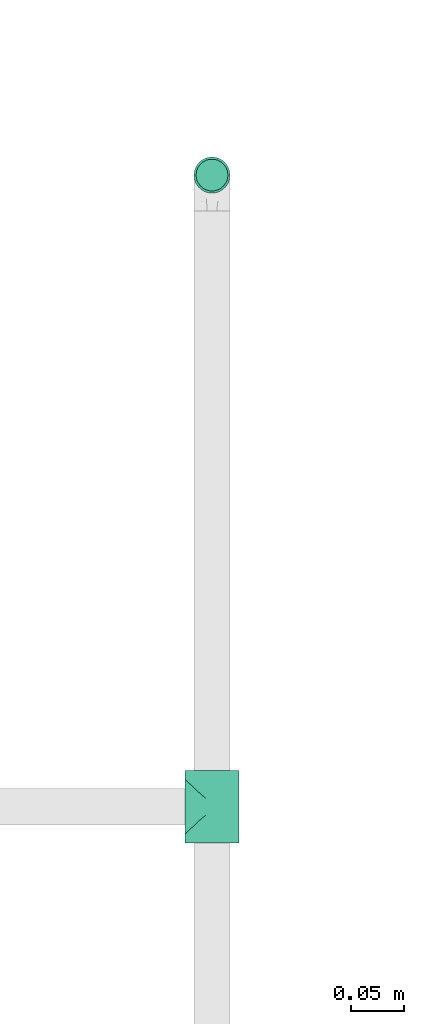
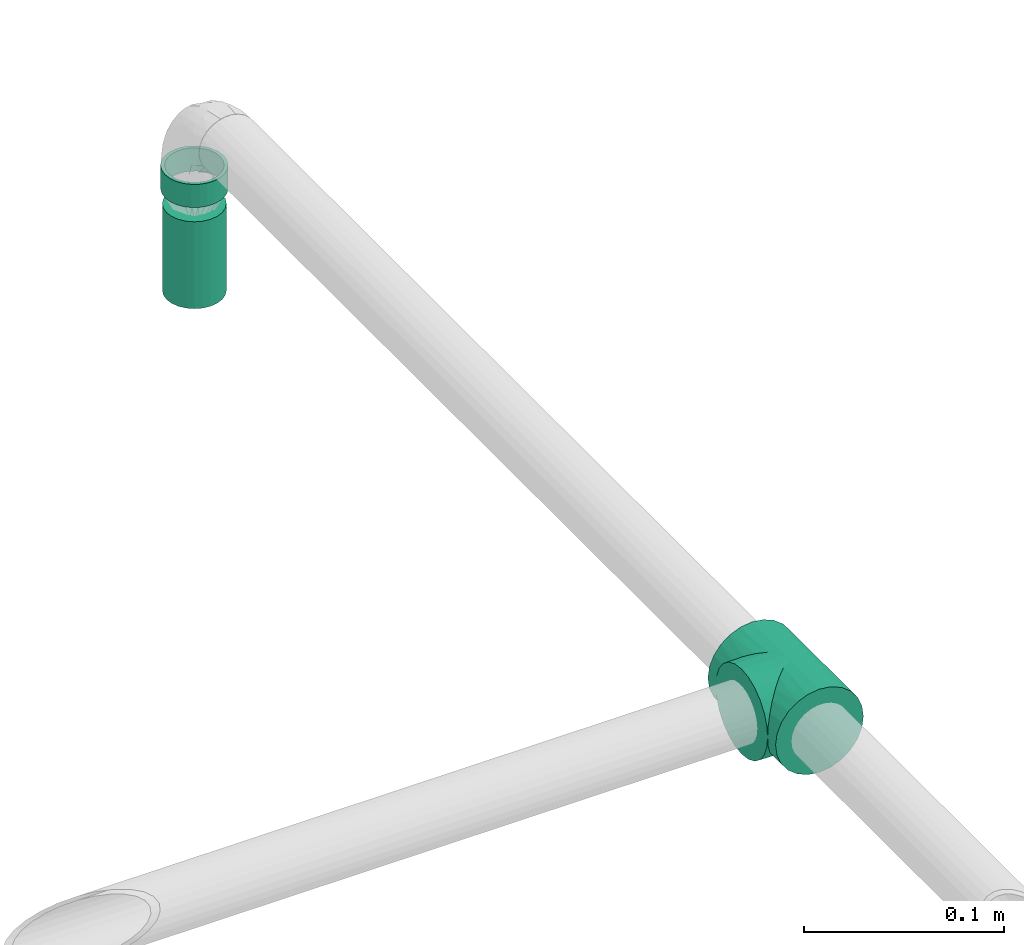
# One storey, part 8 of 17: 1 flow fitting, 1 flow segment, 1 flow terminal.
"""IFC2X3 building model written with IfcOpenShell, lengths in millimetres."""

from ifc_helpers import new_model, entity, si_unit, converted_unit, derived_unit, direction, frame, origin_with_axes, origin_2d_with_axis, place, context, subcontext, project, spatial, hollow_circle, extrude, open_shell, surface_model, source, transform, mapped, type_object, element, save


model = new_model("IFC2X3")

# Units and contexts
model_context = context("Model", 3, precision=0.01, world=frame((0.0, 4.29681676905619e-09, 0.0)), true_north=direction((4.01073788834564e-13, 1.0)))
plan_context = context("Plan", 3, precision=0.01, world=frame((0.0, 4.29681676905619e-09, 0.0)), true_north=direction((4.01073788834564e-13, 1.0)))
body_context = subcontext(model_context, "Body", "Model", "MODEL_VIEW")
ifc_project = project(units=[converted_unit("PLANEANGLEUNIT", "DEGREE", entity("IfcPositiveLengthMeasure", 0.0174532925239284), si_unit("PLANEANGLEUNIT", "RADIAN"), dimensions=[0, 0, 0, 0, 0, 0, 0]), si_unit("AREAUNIT", "SQUARE_METRE"), si_unit("LENGTHUNIT", "METRE", prefix="MILLI"), si_unit("MASSUNIT", "GRAM", prefix="KILO"), si_unit("POWERUNIT", "WATT"), si_unit("PRESSUREUNIT", "PASCAL"), si_unit("FORCEUNIT", "NEWTON", prefix="KILO"), si_unit("ELECTRICVOLTAGEUNIT", "VOLT"), si_unit("ELECTRICCURRENTUNIT", "AMPERE"), si_unit("THERMODYNAMICTEMPERATUREUNIT", "DEGREE_CELSIUS"), si_unit("TIMEUNIT", "SECOND"), si_unit("VOLUMEUNIT", "CUBIC_METRE"), derived_unit("LINEARVELOCITYUNIT", [(si_unit("LENGTHUNIT", "METRE"), 1), (si_unit("TIMEUNIT", "SECOND"), -1)]), derived_unit("VOLUMETRICFLOWRATEUNIT", [(si_unit("VOLUMEUNIT", "CUBIC_METRE"), 1), (si_unit("TIMEUNIT", "SECOND"), -1)]), derived_unit("THERMALTRANSMITTANCEUNIT", [(si_unit("POWERUNIT", "WATT"), 1), (si_unit("THERMODYNAMICTEMPERATUREUNIT", "KELVIN"), -1), (si_unit("AREAUNIT", "SQUARE_METRE"), -1)]), derived_unit("SOUNDPRESSUREUNIT", [(si_unit("PRESSUREUNIT", "PASCAL"), 1)])], contexts=[model_context, plan_context])

# Site, building, storey
site_placement = place(None, frame((0.0, -4.29681676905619e-09, 0.0), z_axis=(0.0, 0.0, 1.0), x_axis=(1.0, 0.0, 0.0)))
site = spatial("IfcSite", under=ifc_project, at=site_placement, Name="ENGM", CompositionType="ELEMENT")
building_placement = place(site_placement, frame((0.0, 4.29681676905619e-09, 0.0), z_axis=(0.0, 0.0, 1.0), x_axis=(1.0, 0.0, 0.0)))
building = spatial("IfcBuilding", under=site, at=building_placement, Name="TH", CompositionType="ELEMENT")
storey_placement = place(building_placement, frame((0.0, 0.0, 205200.0), z_axis=(0.0, 0.0, 1.0), x_axis=(1.0, 0.0, 0.0)))
storey = spatial("IfcBuildingStorey", under=building, at=storey_placement, Name="Nivå D + 1,2 m", CompositionType="ELEMENT", Elevation=205200.0)

# Flow fitting
pipe_fitting_type = type_object("IfcPipeFittingType", Name="magi_pipe_fe_tee_centric_90_NOR 2", PredefinedType="JUNCTION")
shared_shape_1 = source(origin_with_axes(), body_context, "Body", "SurfaceModel", [
    surface_model("IfcShellBasedSurfaceModel", [(-33.8, 4.37404, -16.32415), (-33.8, 0.0, -16.9), (-33.8, 16.32415, -4.37404), (-33.8, 8.45, -14.63583), (-33.8, 11.9501, -11.9501), (-33.8, 14.63583, -8.45), (-33.8, -16.9, 0.0), (-33.8, -11.9501, -11.9501), (-33.8, -14.63583, -8.45), (-33.8, -8.45, -14.63583), (-33.8, -4.37404, -16.32415), (-33.8, -16.32415, -4.37404), (-33.8, 14.63583, 8.45), (-33.8, 16.32415, 4.37404), (-33.8, -8.45, 14.63583), (-33.8, 8.45, 14.63583), (-33.8, 11.9501, 11.9501), (-33.8, 4.37404, 16.32415), (-33.8, 0.0, 16.9), (-33.8, -4.37404, 16.32415), (-33.8, -16.32415, 4.37404), (-33.8, 16.9, 0.0), (33.8, 4.37404, -16.32415), (33.8, -16.9, 0.0), (33.8, 0.0, -16.9), (33.8, 14.63583, -8.45), (33.8, 8.45, -14.63583), (33.8, 16.32415, -4.37404), (33.8, 11.9501, -11.9501), (33.8, -16.32415, 4.37404), (33.8, -8.45, -14.63583), (33.8, -4.37404, -16.32415), (33.8, -11.9501, -11.9501), (33.8, -14.63583, -8.45), (33.8, -16.32415, -4.37404), (33.8, 16.32415, 4.37404), (33.8, 8.45, 14.63583), (33.8, 14.63583, 8.45), (33.8, 11.9501, 11.9501), (33.8, -8.45, 14.63583), (33.8, 0.0, 16.9), (33.8, -4.37404, 16.32415), (33.8, -14.63583, 8.45), (16.28698, -16.28698, 4.51047), (16.9, -16.9, 0.0), (14.62704, -14.62704, 8.4652), (33.8, -11.9501, 11.9501), (9.47213, -9.47213, 13.99602), (12.26343, -12.26343, 11.62834), (-16.9, -16.9, 0.0), (-16.28698, -16.28698, 4.51047), (-33.8, -14.63583, 8.45), (-14.62704, -14.62704, 8.4652), (-12.26343, -12.26343, 11.62834), (-9.47213, -9.47213, 13.99602), (-33.8, -11.9501, 11.9501), (-6.42894, -6.42894, 15.62942), (6.42894, -6.42894, 15.62942), (3.24522, -3.24522, 16.58549), (0.0, 0.0, 16.9), (33.8, 4.37404, 16.32415), (33.8, 16.9, 0.0), (-3.24522, -3.24522, 16.58549), (3.24522, -3.24522, -16.58549), (0.0, 0.0, -16.9), (-3.24522, -3.24522, -16.58549), (-6.42894, -6.42894, -15.62942), (6.42894, -6.42894, -15.62942), (9.47213, -9.47213, -13.99602), (12.26343, -12.26343, -11.62834), (14.62704, -14.62704, -8.4652), (16.28698, -16.28698, -4.51047), (-9.47213, -9.47213, -13.99602), (-12.26343, -12.26343, -11.62834), (-16.28698, -16.28698, -4.51047), (-14.62704, -14.62704, -8.4652), (4.37404, -25.35, -16.32415), (-16.9, -25.35, 0.0), (0.0, -25.35, -16.9), (14.63583, -25.35, -8.45), (8.45, -25.35, -14.63583), (16.32415, -25.35, -4.37404), (11.9501, -25.35, -11.9501), (-11.9501, -25.35, -11.9501), (-8.45, -25.35, -14.63583), (-4.37404, -25.35, -16.32415), (-14.63583, -25.35, -8.45), (-16.32415, -25.35, -4.37404), (8.45, -25.35, 14.63583), (16.32415, -25.35, 4.37404), (14.63583, -25.35, 8.45), (11.9501, -25.35, 11.9501), (-16.32415, -25.35, 4.37404), (-11.9501, -25.35, 11.9501), (-14.63583, -25.35, 8.45), (-8.45, -25.35, 14.63583), (0.0, -25.35, 16.9), (-4.37404, -25.35, 16.32415), (4.37404, -25.35, 16.32415), (16.9, -25.35, 0.0), (0.0, -25.35, -25.9), (6.70341, -25.35, -25.01748), (12.95, -25.35, -22.43006), (-6.70341, -25.35, -25.01748), (22.43006, -25.35, -12.95), (25.01748, -25.35, -6.70341), (18.31407, -25.35, -18.31407), (-18.31407, -25.35, -18.31407), (-12.95, -25.35, -22.43006), (-25.01748, -25.35, -6.70341), (-22.43006, -25.35, -12.95), (-25.9, -25.35, 0.0), (-18.31407, -25.35, 18.31407), (25.9, -25.35, 0.0), (25.01748, -25.35, 6.70341), (22.43006, -25.35, 12.95), (12.95, -25.35, 22.43006), (18.31407, -25.35, 18.31407), (0.0, -25.35, 25.9), (6.70341, -25.35, 25.01748), (-25.01748, -25.35, 6.70341), (-22.43006, -25.35, 12.95), (-6.70341, -25.35, 25.01748), (-12.95, -25.35, 22.43006), (-25.09344, -24.52537, 6.41319), (-25.06335, -25.35, 6.35497), (23.99287, -23.39675, 9.26368), (23.72377, -25.35, 9.82671), (24.0472, -25.35, 9.04588), (24.26801, -23.6789, 8.55106), (-22.89229, -22.26813, 12.11417), (-23.07691, -25.35, 11.38835), (-15.98186, -15.07423, 20.38112), (25.09344, -24.52537, 6.41319), (25.06335, -25.35, 6.35497), (-11.93303, -10.68689, 22.98723), (-23.99287, -23.39675, 9.26368), (-24.0472, -25.35, 9.04588), (-23.72377, -25.35, 9.82671), (24.95587, -24.38429, 6.7695), (-20.37206, -25.35, 15.63203), (-19.72917, -19.00139, 16.78004), (-24.85577, -25.35, 7.09383), (-24.95587, -24.38429, 6.7695), (-5.30919, 0.0, 25.35), (24.54316, -23.96106, 7.83843), (24.37062, -25.35, 8.26506), (24.69405, -25.35, 7.48424), (-24.26801, -23.6789, 8.55106), (-24.54316, -23.96106, 7.83843), (-24.37062, -25.35, 8.26506), (-21.40106, -25.35, 14.29102), (-21.31073, -20.63476, 14.4471), (-23.44258, -22.83244, 10.68892), (19.72917, -19.00139, 16.78004), (20.37206, -25.35, 15.63203), (-25.40754, -24.8465, 3.91569), (-25.38447, -25.35, 3.91583), (-7.90306, -5.85414, 24.66478), (24.85577, -25.35, 7.09383), (23.44258, -22.83244, 10.68892), (0.00306, 0.0, 25.9), (-25.20098, -25.35, 5.30962), (-25.21123, -24.64579, 5.47663), (-25.25049, -24.68593, 5.16444), (11.93303, -10.68689, 22.98723), (15.98186, -15.07423, 20.38112), (25.13271, -24.56551, 6.101), (22.89229, -22.26813, 12.11417), (21.31073, -20.63476, 14.4471), (25.25049, -24.68593, 5.16444), (25.24685, -25.35, 4.96118), (25.28976, -24.72608, 4.85225), (25.21123, -24.64579, 5.47663), (25.17197, -24.60565, 5.78882), (25.1551, -25.35, 5.65807), (23.07691, -25.35, 11.38835), (5.30919, 0.0, 25.35), (7.90306, -5.85414, 24.66478), (25.10923, -25.35, 6.00652), (-25.32902, -24.76622, 4.54007), (-25.3386, -25.35, 4.26428), (-25.29272, -25.35, 4.61273), (21.40106, -25.35, 14.29102), (-24.69405, -25.35, 7.48424), (-25.13271, -24.56551, 6.101), (24.8183, -24.24321, 7.12581), (-24.8183, -24.24321, 7.12581), (-25.24685, -25.35, 4.96118), (25.38447, -25.35, 3.91583), (25.40754, -24.8465, 3.91569), (-25.17197, -24.60565, 5.78882), (-25.1551, -25.35, 5.65807), (-25.10923, -25.35, 6.00652), (25.3386, -25.35, 4.26428), (25.36828, -24.80636, 4.22788), (25.32902, -24.76622, 4.54007), (25.20098, -25.35, 5.30962), (-25.36828, -24.80636, 4.22788), (25.29272, -25.35, 4.61273), (-25.28976, -24.72608, 4.85225), (25.06335, -25.35, -6.35497), (25.09344, -24.52537, -6.41319), (25.13271, -24.56551, -6.101), (24.26801, -23.6789, -8.55106), (24.54316, -23.96106, -7.83843), (24.37062, -25.35, -8.26506), (-25.06335, -25.35, -6.35497), (-25.10923, -25.35, -6.00652), (-25.13271, -24.56551, -6.101), (20.37206, -25.35, -15.63203), (19.72917, -19.00139, -16.78004), (23.07691, -25.35, -11.38835), (23.44258, -22.83244, -10.68892), (23.72377, -25.35, -9.82671), (15.98186, -15.07423, -20.38112), (-23.07691, -25.35, -11.38835), (-23.72377, -25.35, -9.82671), (-23.44258, -22.83244, -10.68892), (25.32902, -24.76622, -4.54007), (25.3386, -25.35, -4.26428), (25.29272, -25.35, -4.61273), (22.89229, -22.26813, -12.11417), (-24.95587, -24.38429, -6.7695), (-24.8183, -24.24321, -7.12581), (-24.85577, -25.35, -7.09383), (11.93303, -10.68689, -22.98723), (-25.21123, -24.64579, -5.47663), (-25.17197, -24.60565, -5.78882), (-25.1551, -25.35, -5.65807), (21.40106, -25.35, -14.29102), (21.31073, -20.63476, -14.4471), (-25.25049, -24.68593, -5.16444), (-25.24685, -25.35, -4.96118), (-25.28976, -24.72608, -4.85225), (7.90306, -5.85414, -24.66478), (-25.09344, -24.52537, -6.41319), (5.30919, 0.0, -25.35), (0.00306, 0.0, -25.9), (23.99287, -23.39675, -9.26368), (24.0472, -25.35, -9.04588), (25.40754, -24.8465, -3.91569), (25.38447, -25.35, -3.91583), (24.95587, -24.38429, -6.7695), (-11.93303, -10.68689, -22.98723), (-5.30919, 0.0, -25.35), (-24.37062, -25.35, -8.26506), (-24.26801, -23.6789, -8.55106), (-24.0472, -25.35, -9.04588), (-22.89229, -22.26813, -12.11417), (-21.31073, -20.63476, -14.4471), (-15.98186, -15.07423, -20.38112), (-19.72917, -19.00139, -16.78004), (-20.37206, -25.35, -15.63203), (-21.40106, -25.35, -14.29102), (-7.90306, -5.85414, -24.66478), (25.20098, -25.35, -5.30962), (25.21123, -24.64579, -5.47663), (25.25049, -24.68593, -5.16444), (-23.99287, -23.39675, -9.26368), (-24.54316, -23.96106, -7.83843), (-24.69405, -25.35, -7.48424), (24.69405, -25.35, -7.48424), (24.85577, -25.35, -7.09383), (24.8183, -24.24321, -7.12581), (25.24685, -25.35, -4.96118), (-25.38447, -25.35, -3.91583), (-25.40754, -24.8465, -3.91569), (25.17197, -24.60565, -5.78882), (25.1551, -25.35, -5.65807), (25.10923, -25.35, -6.00652), (-25.3386, -25.35, -4.26428), (-25.36828, -24.80636, -4.22788), (-25.32902, -24.76622, -4.54007), (-25.20098, -25.35, -5.30962), (25.36828, -24.80636, -4.22788), (-25.29272, -25.35, -4.61273), (25.28976, -24.72608, -4.85225), (-33.8, 0.0, -25.35), (-33.8, -25.35, 0.0), (-33.8, 6.56106, -24.48622), (-33.8, 12.675, -21.95374), (-33.8, 21.95374, -12.675), (-33.8, 24.48622, -6.56106), (-33.8, 17.92516, -17.92516), (-33.8, -17.92516, -17.92516), (-33.8, -21.95374, -12.675), (-33.8, -12.675, -21.95374), (-33.8, -6.56106, -24.48622), (-33.8, -24.48622, -6.56106), (-33.8, 25.35, 0.0), (-33.8, 24.48622, 6.56106), (-33.8, -21.95374, 12.675), (-33.8, 21.95374, 12.675), (-33.8, 6.56106, 24.48622), (-33.8, 12.675, 21.95374), (-33.8, 17.92516, 17.92516), (-33.8, -17.92516, 17.92516), (-33.8, -6.56106, 24.48622), (-33.8, -24.48622, 6.56106), (-33.8, -12.675, 21.95374), (-33.8, 0.0, 25.35), (33.8, 6.56106, -24.48622), (33.8, -25.35, 0.0), (33.8, 0.0, -25.35), (33.8, 21.95374, -12.675), (33.8, 12.675, -21.95374), (33.8, 24.48622, 6.56106), (33.8, 17.92516, -17.92516), (33.8, -12.675, -21.95374), (33.8, -21.95374, -12.675), (33.8, -17.92516, -17.92516), (33.8, -6.56106, -24.48622), (33.8, -24.48622, -6.56106), (33.8, 24.48622, -6.56106), (33.8, 21.95374, 12.675), (33.8, -21.95374, 12.675), (33.8, 17.92516, 17.92516), (33.8, 12.675, 21.95374), (33.8, 6.56106, 24.48622), (33.8, -6.56106, 24.48622), (33.8, -17.92516, 17.92516), (33.8, -24.48622, 6.56106), (33.8, -12.675, 21.95374), (33.8, 0.0, 25.35), (33.8, 25.35, 0.0), (33.8, -23.21998, 9.61803), (17.85552, -17.03781, 18.58058), (33.8, -15.30008, 19.93945), (33.8, -19.93945, 15.30008), (-33.8, -19.93945, 15.30008), (-33.8, -23.21998, 9.61803), (33.8, -9.61803, 23.21998), (-33.8, -15.30008, 19.93945), (-17.85552, -17.03781, 18.58058), (-33.8, -9.61803, 23.21998), (-33.8, -9.61803, -23.21998), (-17.85552, -17.03781, -18.58058), (-33.8, -15.30008, -19.93945), (33.8, -9.61803, -23.21998), (17.85552, -17.03781, -18.58058), (33.8, -15.30008, -19.93945), (33.8, -23.21998, -9.61803), (33.8, -19.93945, -15.30008), (-33.8, -19.93945, -15.30008), (-33.8, -23.21998, -9.61803)], [open_shell([[[0, 1, 2]], [[3, 0, 4]], [[0, 2, 5]], [[4, 0, 5]], [[6, 2, 1]], [[7, 8, 9]], [[1, 10, 9]], [[11, 6, 8]], [[1, 9, 8]], [[1, 8, 6]], [[6, 12, 2]], [[12, 13, 2]], [[14, 12, 6]], [[12, 14, 15]], [[16, 12, 15]], [[17, 15, 18]], [[19, 18, 14]], [[14, 6, 20]], [[14, 18, 15]], [[21, 2, 13]], [[22, 23, 24]], [[25, 22, 26]], [[25, 27, 22]], [[25, 26, 28]], [[29, 23, 22]], [[24, 30, 31]], [[24, 32, 30]], [[33, 23, 34]], [[33, 32, 24]], [[23, 33, 24]], [[22, 27, 29]], [[27, 35, 36]], [[36, 35, 37]], [[36, 37, 38]], [[39, 40, 41]], [[29, 42, 43]], [[23, 29, 44]], [[44, 29, 43]], [[42, 45, 43]], [[46, 39, 47]], [[45, 42, 48]], [[47, 48, 46]], [[48, 42, 46]], [[49, 50, 20]], [[49, 20, 6]], [[20, 50, 51]], [[50, 52, 51]], [[53, 54, 55]], [[55, 51, 53]], [[55, 54, 14]], [[53, 51, 52]], [[14, 54, 56]], [[47, 39, 57]], [[58, 40, 59]], [[57, 41, 58]], [[41, 57, 39]], [[58, 41, 40]], [[59, 40, 60]], [[37, 35, 13]], [[16, 36, 38]], [[12, 38, 37]], [[60, 36, 15]], [[21, 35, 61]], [[62, 59, 18]], [[62, 19, 56]], [[19, 62, 18]], [[56, 19, 14]], [[59, 17, 18]], [[60, 17, 59]], [[15, 17, 60]], [[15, 36, 16]], [[12, 16, 38]], [[13, 12, 37]], [[35, 21, 13]], [[5, 25, 28]], [[21, 61, 27]], [[28, 26, 3]], [[25, 2, 27]], [[24, 31, 63]], [[24, 64, 22]], [[64, 24, 63]], [[26, 22, 0]], [[64, 0, 22]], [[4, 28, 3]], [[2, 25, 5]], [[5, 28, 4]], [[2, 21, 27]], [[65, 66, 10]], [[1, 0, 64]], [[1, 65, 10]], [[66, 9, 10]], [[0, 3, 26]], [[1, 64, 65]], [[63, 31, 67]], [[30, 32, 68]], [[69, 68, 32]], [[33, 70, 69]], [[69, 32, 33]], [[30, 68, 67]], [[34, 23, 44]], [[34, 71, 33]], [[71, 34, 44]], [[33, 71, 70]], [[72, 9, 66]], [[72, 7, 9]], [[7, 72, 73]], [[7, 73, 8]], [[74, 49, 11]], [[75, 74, 8]], [[74, 11, 8]], [[11, 49, 6]], [[75, 8, 73]], [[30, 67, 31]], [[76, 77, 78]], [[79, 76, 80]], [[79, 81, 76]], [[79, 80, 82]], [[77, 76, 81]], [[78, 83, 84]], [[84, 85, 78]], [[86, 77, 87]], [[83, 78, 86]], [[77, 86, 78]], [[88, 89, 90]], [[88, 90, 91]], [[92, 93, 94]], [[95, 96, 97]], [[77, 92, 49]], [[50, 49, 92]], [[94, 93, 53]], [[93, 95, 54]], [[92, 94, 50]], [[56, 95, 97]], [[52, 50, 94]], [[53, 52, 94]], [[56, 54, 95]], [[96, 59, 62]], [[56, 97, 62]], [[53, 93, 54]], [[62, 97, 96]], [[98, 58, 96]], [[88, 57, 98]], [[90, 89, 43]], [[48, 91, 90]], [[91, 47, 88]], [[44, 89, 99]], [[57, 58, 98]], [[47, 57, 88]], [[44, 43, 89]], [[45, 48, 90]], [[43, 45, 90]], [[47, 91, 48]], [[96, 58, 59]], [[99, 81, 44]], [[71, 44, 81]], [[79, 82, 69]], [[82, 80, 68]], [[81, 79, 71]], [[67, 80, 76]], [[70, 71, 79]], [[69, 70, 79]], [[67, 68, 80]], [[78, 64, 63]], [[67, 76, 63]], [[69, 82, 68]], [[63, 76, 78]], [[85, 65, 78]], [[84, 66, 85]], [[86, 87, 74]], [[86, 73, 83]], [[72, 84, 83]], [[49, 87, 77]], [[66, 65, 85]], [[72, 66, 84]], [[49, 74, 87]], [[75, 73, 86]], [[74, 75, 86]], [[72, 83, 73]], [[78, 65, 64]], [[51, 55, 20]], [[100, 101, 102]], [[103, 100, 102]], [[104, 105, 102]], [[104, 102, 106]], [[103, 102, 105]], [[103, 107, 108]], [[107, 103, 109]], [[107, 109, 110]], [[109, 103, 111]], [[103, 105, 111]], [[105, 112, 111]], [[113, 114, 115]], [[116, 105, 115]], [[105, 116, 112]], [[116, 115, 117]], [[118, 116, 119]], [[120, 112, 121]], [[111, 112, 120]], [[112, 122, 123]], [[122, 112, 118]], [[116, 118, 112]], [[115, 105, 113]], [[120, 124, 125]], [[126, 127, 128]], [[128, 129, 126]], [[121, 130, 131]], [[132, 112, 123]], [[133, 114, 134]], [[123, 122, 135]], [[136, 137, 138]], [[114, 133, 139]], [[140, 112, 141]], [[142, 143, 120]], [[118, 144, 122]], [[145, 146, 147]], [[148, 149, 150]], [[151, 140, 152]], [[138, 153, 136]], [[154, 117, 155]], [[135, 132, 123]], [[156, 111, 157]], [[144, 158, 122]], [[135, 122, 158]], [[114, 139, 159]], [[141, 112, 132]], [[127, 126, 160]], [[118, 161, 144]], [[162, 163, 164]], [[116, 165, 119]], [[153, 131, 130]], [[140, 141, 152]], [[117, 166, 116]], [[134, 167, 133]], [[121, 152, 130]], [[168, 169, 115]], [[129, 128, 146]], [[131, 153, 138]], [[170, 171, 172]], [[173, 174, 175]], [[160, 168, 176]], [[177, 161, 118]], [[119, 178, 177]], [[120, 143, 124]], [[134, 179, 167]], [[180, 181, 182]], [[154, 155, 169]], [[115, 169, 183]], [[178, 119, 165]], [[176, 127, 160]], [[154, 166, 117]], [[116, 166, 165]], [[168, 115, 176]], [[149, 184, 150]], [[177, 118, 119]], [[185, 125, 124]], [[139, 186, 159]], [[169, 155, 183]], [[145, 147, 186]], [[152, 121, 151]], [[184, 149, 187]], [[164, 188, 162]], [[189, 113, 190]], [[186, 147, 159]], [[187, 142, 184]], [[148, 137, 136]], [[191, 192, 193]], [[194, 195, 196]], [[143, 142, 187]], [[193, 185, 191]], [[173, 175, 197]], [[125, 185, 193]], [[192, 163, 162]], [[197, 170, 173]], [[179, 174, 167]], [[198, 157, 181]], [[146, 145, 129]], [[199, 196, 172]], [[137, 148, 150]], [[174, 179, 175]], [[163, 192, 191]], [[182, 200, 180]], [[170, 197, 171]], [[195, 189, 190]], [[200, 182, 188]], [[199, 172, 171]], [[188, 164, 200]], [[196, 199, 194]], [[157, 198, 156]], [[189, 195, 194]], [[181, 180, 198]], [[201, 105, 202]], [[203, 201, 202]], [[204, 205, 206]], [[207, 208, 209]], [[210, 106, 211]], [[212, 213, 214]], [[106, 102, 215]], [[216, 217, 218]], [[219, 220, 221]], [[212, 104, 222]], [[223, 224, 225]], [[226, 102, 101]], [[227, 228, 229]], [[230, 210, 231]], [[215, 211, 106]], [[213, 212, 222]], [[232, 233, 234]], [[226, 101, 235]], [[236, 109, 207]], [[237, 235, 101]], [[215, 102, 226]], [[210, 211, 231]], [[238, 237, 100]], [[239, 240, 214]], [[237, 101, 100]], [[109, 236, 223]], [[241, 113, 242]], [[105, 243, 202]], [[103, 108, 244]], [[100, 103, 245]], [[246, 247, 248]], [[249, 110, 216]], [[110, 249, 250]], [[104, 231, 222]], [[108, 107, 251]], [[252, 107, 253]], [[110, 250, 254]], [[236, 207, 209]], [[109, 223, 225]], [[255, 245, 103]], [[244, 255, 103]], [[214, 213, 239]], [[256, 257, 258]], [[216, 218, 249]], [[217, 259, 218]], [[252, 251, 107]], [[260, 246, 261]], [[252, 253, 250]], [[244, 108, 251]], [[205, 262, 206]], [[248, 247, 259]], [[100, 245, 238]], [[259, 217, 248]], [[263, 243, 105]], [[250, 253, 254]], [[260, 261, 224]], [[231, 104, 230]], [[262, 205, 264]], [[258, 265, 256]], [[266, 111, 267]], [[224, 261, 225]], [[264, 263, 262]], [[204, 240, 239]], [[268, 269, 270]], [[271, 272, 273]], [[243, 263, 264]], [[270, 203, 268]], [[227, 229, 274]], [[201, 203, 270]], [[269, 257, 256]], [[274, 232, 227]], [[208, 228, 209]], [[275, 242, 220]], [[246, 260, 247]], [[276, 273, 234]], [[240, 204, 206]], [[228, 208, 229]], [[257, 269, 268]], [[221, 277, 219]], [[232, 274, 233]], [[272, 266, 267]], [[277, 221, 265]], [[276, 234, 233]], [[265, 258, 277]], [[273, 276, 271]], [[242, 275, 241]], [[266, 272, 271]], [[220, 219, 275]], [[278, 279, 280]], [[281, 280, 282]], [[280, 283, 282]], [[284, 281, 282]], [[283, 280, 279]], [[285, 286, 287]], [[288, 287, 286]], [[289, 279, 286]], [[278, 288, 286]], [[286, 279, 278]], [[279, 290, 283]], [[291, 279, 292]], [[291, 292, 293]], [[294, 295, 296]], [[292, 296, 293]], [[292, 294, 296]], [[297, 298, 292]], [[292, 279, 299]], [[300, 298, 297]], [[298, 294, 292]], [[294, 298, 301]], [[291, 290, 279]], [[302, 303, 304]], [[305, 302, 306]], [[302, 305, 307]], [[305, 306, 308]], [[307, 303, 302]], [[309, 310, 311]], [[310, 309, 312]], [[310, 303, 313]], [[303, 310, 312]], [[312, 304, 303]], [[307, 305, 314]], [[307, 315, 303]], [[316, 303, 315]], [[317, 318, 319]], [[315, 317, 316]], [[317, 319, 316]], [[316, 320, 321]], [[322, 303, 316]], [[321, 320, 323]], [[316, 319, 320]], [[324, 320, 319]], [[307, 314, 325]], [[303, 322, 133]], [[326, 168, 126]], [[133, 113, 303]], [[322, 326, 126]], [[327, 328, 166]], [[326, 316, 168]], [[328, 323, 166]], [[169, 329, 154]], [[154, 321, 327]], [[322, 126, 133]], [[316, 169, 168]], [[292, 152, 330]], [[328, 327, 321]], [[130, 331, 136]], [[299, 136, 331]], [[124, 279, 111]], [[279, 124, 299]], [[299, 124, 136]], [[165, 323, 332]], [[169, 316, 329]], [[154, 329, 321]], [[132, 135, 300]], [[132, 333, 334]], [[292, 130, 152]], [[334, 333, 297]], [[135, 335, 300]], [[330, 152, 141]], [[297, 141, 334]], [[166, 323, 165]], [[178, 324, 177]], [[332, 178, 165]], [[178, 332, 320]], [[178, 320, 324]], [[141, 297, 330]], [[177, 324, 319]], [[315, 307, 291]], [[296, 318, 317]], [[293, 317, 315]], [[319, 318, 295]], [[290, 307, 325]], [[301, 144, 294]], [[132, 300, 333]], [[298, 158, 301]], [[335, 158, 298]], [[301, 158, 144]], [[144, 177, 294]], [[158, 335, 135]], [[319, 294, 177]], [[295, 294, 319]], [[295, 318, 296]], [[293, 296, 317]], [[291, 293, 315]], [[307, 290, 291]], [[130, 292, 331]], [[308, 284, 305]], [[314, 283, 325]], [[314, 305, 282]], [[281, 308, 306]], [[304, 312, 235]], [[304, 237, 302]], [[237, 304, 235]], [[286, 250, 249]], [[306, 302, 280]], [[244, 287, 336]], [[237, 245, 302]], [[283, 314, 282]], [[305, 284, 282]], [[284, 308, 281]], [[325, 283, 290]], [[278, 245, 255]], [[289, 259, 236]], [[337, 338, 251]], [[255, 244, 336]], [[245, 278, 280]], [[278, 255, 288]], [[336, 288, 255]], [[280, 281, 306]], [[245, 280, 302]], [[312, 339, 235]], [[222, 231, 310]], [[340, 341, 311]], [[341, 340, 215]], [[222, 310, 342]], [[309, 215, 226]], [[231, 211, 343]], [[313, 303, 202]], [[344, 252, 250]], [[222, 342, 239]], [[113, 202, 303]], [[311, 211, 340]], [[239, 313, 202]], [[313, 239, 342]], [[251, 287, 244]], [[215, 309, 341]], [[251, 338, 287]], [[285, 337, 252]], [[285, 252, 344]], [[211, 311, 343]], [[235, 339, 226]], [[310, 231, 343]], [[338, 337, 285]], [[236, 111, 279]], [[289, 345, 259]], [[249, 345, 286]], [[289, 236, 279]], [[344, 250, 286]], [[345, 249, 259]], [[309, 226, 339]], [[144, 161, 177]], [[245, 237, 238]], [[14, 20, 55]], [[27, 36, 29]], [[40, 36, 60]], [[29, 46, 42]], [[29, 36, 46]], [[39, 46, 36]], [[40, 39, 36]], [[35, 27, 61]], [[81, 89, 77]], [[92, 77, 89]], [[93, 89, 88]], [[93, 88, 98]], [[92, 89, 93]], [[95, 93, 98]], [[96, 95, 98]], [[89, 81, 99]]])]),
])
flow_fitting_placement = place(storey_placement, frame((902429.75707, 481669.28614, 4450.0), z_axis=(0.0, 0.0, 1.0), x_axis=(0.0, -1.0, 0.0)))
element("IfcFlowFitting", 1, at=flow_fitting_placement, inside=storey, type_object=pipe_fitting_type, Name="magi_pipe_fe_tee_centric_90_NOR 2", context=body_context, shape_type="MappedRepresentation", body=[
    mapped(shared_shape_1, transform((0.0, 0.0, 0.0), scale=1.0)),
])

# Flow segment
pipe_segment_type = type_object("IfcPipeSegmentType", Name="Stålrør normaltykke", PredefinedType="RIGIDSEGMENT")
shared_shape_2 = source(origin_with_axes(), body_context, "Body", "SweptSolid", [
    extrude(hollow_circle(Radius=16.9, WallThickness=2.0, at=origin_2d_with_axis()), frame((0.0, 0.0, 0.0), z_axis=(1.0, 0.0, 0.0), x_axis=(0.0, 1.0, 0.0)), (0.0, 0.0, 1.0), 14.1),
])
flow_segment_placement = place(storey_placement, frame((902429.75707, 482260.0386, 4416.20000000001), z_axis=(0.0, -1.0, 0.0), x_axis=(0.0, 0.0, -1.0)))
element("IfcFlowSegment", 2, at=flow_segment_placement, inside=storey, type_object=pipe_segment_type, Name="Stålrør normaltykke", context=body_context, shape_type="MappedRepresentation", body=[
    mapped(shared_shape_2, transform((0.0, 0.0, 0.0), scale=1.0)),
])

# Flow terminal
fire_suppression_terminal_type = type_object("IfcFireSuppressionTerminalType", Name="SP-15-K80-68DGR-STD-NEDOVER", PredefinedType="NOTDEFINED")
shared_shape_3 = source(origin_with_axes(), body_context, "Body", "SurfaceModel", [
    surface_model("IfcShellBasedSurfaceModel", [(4.1411, -15.45481, 53.0), (8.0, -13.85641, 53.0), (11.31371, -11.31371, 53.0), (-8.0, -13.85641, 53.0), (15.45481, -4.1411, 53.0), (16.0, 0.0, 53.0), (13.85641, -8.0, 53.0), (0.0, -16.0, 53.0), (-4.1411, -15.45481, 53.0), (-13.85641, -8.0, 53.0), (-11.31371, -11.31371, 53.0), (-15.45481, -4.1411, 53.0), (15.45481, 4.1411, 53.0), (13.85641, 8.0, 53.0), (11.31371, 11.31371, 53.0), (-4.1411, 15.45481, 53.0), (8.0, 13.85641, 53.0), (4.1411, 15.45481, 53.0), (0.0, 16.0, 53.0), (-13.85641, 8.0, 53.0), (-15.45481, 4.1411, 53.0), (-16.0, 0.0, 53.0), (-11.31371, 11.31371, 53.0), (-8.0, 13.85641, 53.0), (0.0, 16.0, 0.0), (4.1411, 15.45481, 0.0), (8.0, 13.85641, 0.0), (-4.1411, 15.45481, 0.0), (11.31371, 11.31371, 0.0), (13.85641, 8.0, 0.0), (15.45481, 4.1411, 0.0), (-15.45481, -4.1411, 0.0), (-11.31371, 11.31371, 0.0), (-8.0, 13.85641, 0.0), (-13.85641, 8.0, 0.0), (-15.45481, 4.1411, 0.0), (-16.0, 0.0, 0.0), (4.1411, -15.45481, 0.0), (16.0, 0.0, 0.0), (15.45481, -4.1411, 0.0), (13.85641, -8.0, 0.0), (11.31371, -11.31371, 0.0), (8.0, -13.85641, 0.0), (-8.0, -13.85641, 0.0), (-13.85641, -8.0, 0.0), (-11.31371, -11.31371, 0.0), (0.0, -16.0, 0.0), (-4.1411, -15.45481, 0.0)], [open_shell([[[0, 1, 2]], [[3, 0, 2]], [[4, 5, 2]], [[4, 2, 6]], [[3, 2, 5]], [[7, 3, 8]], [[7, 0, 3]], [[3, 9, 10]], [[9, 3, 11]], [[5, 11, 3]], [[5, 12, 11]], [[12, 13, 14]], [[15, 12, 14]], [[16, 17, 18]], [[14, 16, 15]], [[18, 15, 16]], [[11, 19, 20]], [[21, 11, 20]], [[22, 15, 23]], [[15, 22, 19]], [[19, 11, 15]], [[11, 12, 15]], [[24, 25, 26]], [[27, 24, 26]], [[28, 29, 30]], [[27, 26, 28]], [[27, 28, 31]], [[27, 32, 33]], [[32, 27, 34]], [[34, 31, 35]], [[31, 34, 27]], [[35, 31, 36]], [[28, 30, 31]], [[37, 38, 39]], [[37, 39, 40]], [[41, 42, 37]], [[41, 37, 40]], [[38, 37, 43]], [[44, 43, 45]], [[43, 44, 31]], [[43, 46, 47]], [[43, 31, 38]], [[37, 46, 43]], [[38, 31, 30]], [[11, 31, 44]], [[45, 9, 44]], [[3, 43, 47]], [[45, 43, 10]], [[8, 47, 46]], [[31, 21, 36]], [[31, 11, 21]], [[44, 9, 11]], [[45, 10, 9]], [[3, 10, 43]], [[47, 8, 3]], [[46, 7, 8]], [[0, 37, 42]], [[41, 1, 42]], [[6, 40, 39]], [[41, 40, 2]], [[4, 39, 38]], [[37, 0, 7]], [[42, 1, 0]], [[41, 2, 1]], [[40, 6, 2]], [[4, 6, 39]], [[38, 5, 4]], [[37, 7, 46]], [[12, 38, 30]], [[13, 30, 29]], [[16, 26, 25]], [[17, 25, 24]], [[30, 13, 12]], [[12, 5, 38]], [[28, 14, 13]], [[28, 26, 14]], [[14, 26, 16]], [[25, 17, 16]], [[28, 13, 29]], [[24, 18, 17]], [[15, 27, 33]], [[32, 23, 33]], [[19, 34, 35]], [[32, 34, 22]], [[20, 35, 36]], [[27, 15, 18]], [[33, 23, 15]], [[32, 22, 23]], [[34, 19, 22]], [[20, 19, 35]], [[36, 21, 20]], [[27, 18, 24]]])]),
])
flow_terminal_placement = place(storey_placement, frame((902429.75707, 482260.0386, 4392.79285999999), z_axis=(0.0, 0.0, -1.0), x_axis=(-0.999999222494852, 0.00124700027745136, 0.0)))
element("IfcFlowTerminal", 3, at=flow_terminal_placement, inside=storey, type_object=fire_suppression_terminal_type, Name="SP-15-K80-68DGR-STD-NEDOVER", context=body_context, shape_type="MappedRepresentation", body=[
    mapped(shared_shape_3, transform((0.0, 0.0, 0.0), scale=1.0)),
])

save(model, "model.ifc")
